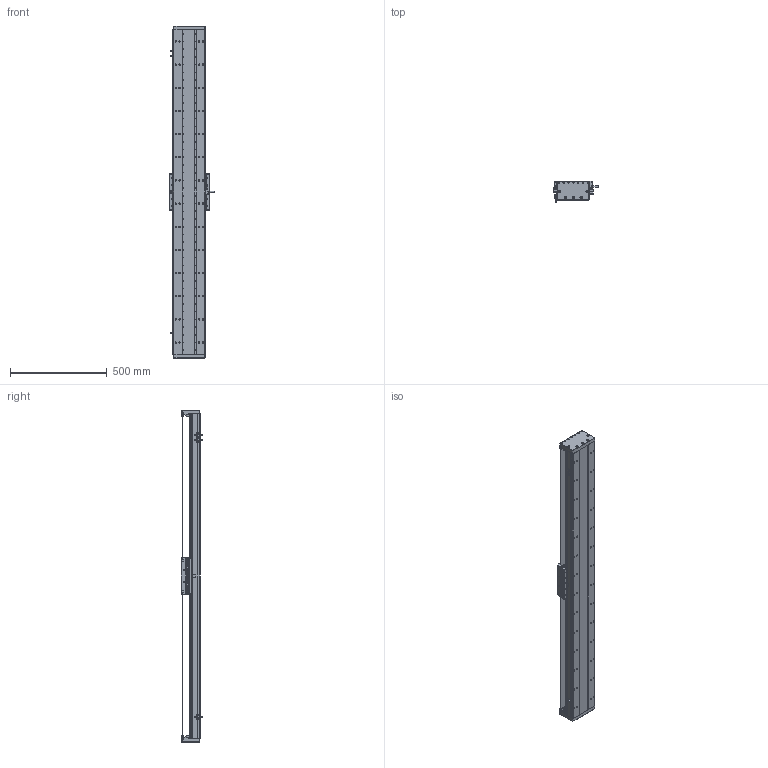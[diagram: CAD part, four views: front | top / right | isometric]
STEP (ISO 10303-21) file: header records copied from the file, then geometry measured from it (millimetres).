
FILE_DESCRIPTION (( 'STEP AP203' ), '1' );
FILE_NAME ('DA-C165-C2-T1440-C010-0.2 直线电机.STEP', '2023-05-15T01:14:29', ( '微软用户' ), ( '微软中国' ), 'SwSTEP 2.0', 'SolidWorks 2019', '' );
FILE_SCHEMA (( 'CONFIG_CONTROL_DESIGN' ));
Length unit declared in the file: millimetre
Products named in the file (18): IU-CU165-L-00 菁釱_L1680; 复件 CKM02-W075-C1C2-TP-3.0 一体电机-C2^DA-C165-C2-T-C010-0.2-N 直线电机; 葩璃 CKM01-W075-TRL^DA-C165-C2-T-C010-0.2-N 眻盄萇儂; 复件 六角薄螺母 M3^DA-C165-C2-T-C010-0.2-N 直线电机_GB_FASTENER_NUT_STNAB M3-C; 复件 DA165-GD-1860-002-00 钢带盖板^复件 CU165钢带组件_DA-C165-C2-T-C010-0.2-N 直线电机; 复件 DA95-HXJ-00 缓冲橡胶^DA-C165-C2-T-C010-0.2-N 直线电机; 复件 DA165-GD-DG-H-00 端盖^复件 CU165钢带组件_DA-C165-C2-T-C010-0.2-N 直线电机; 复件 DA165-GDYK-00 钢带压块^复件 CU165钢带组件_DA-C165-C2-T-C010-0.2-N 直线电机; 复件 DA165-GYP-00 光电感应片^DA-C165-C2-T-C010-0.2-N 直线电机; 复件 CU165钢带组件^DA-C165-C2-T-C010-0.2-N 直线电机; 葩璃 PM-T45^DA-C165-C2-T-C010-0.2-N 眻盄萇儂; DA-C165-C2-T1440-C010-0.2 眻盄萇儂; 珨极趙賑雄怢啣wf-C2; IU-CU165-L 菁釱絳寢; 葩璃 DA95-GT-T-00^IU-CU165-L 菁釱絳寢_T; 复件 XD-U-02L 磁栅尺^DA-C165-C2-T-C010-0.2-N 直线电机_T; 复件 DMA-010-0.2 读数头^DA-C165-C2-T-C010-0.2-N 直线电机; 复件 DA165-GDLK-00 钢带拉块^复件 CU165钢带组件_DA-C165-C2-T-C010-0.2-N 直线电机
Assembly tree (33 placements, depth 3):
  DA-C165-C2-T1440-C010-0.2 眻盄萇儂
    IU-CU165-L 菁釱絳寢
      IU-CU165-L-00 菁釱_L1680
      葩璃 DA95-GT-T-00^IU-CU165-L 菁釱絳寢_T  x4
    复件 XD-U-02L 磁栅尺^DA-C165-C2-T-C010-0.2-N 直线电机_T
    葩璃 PM-T45^DA-C165-C2-T-C010-0.2-N 眻盄萇儂  x3
    葩璃 CKM01-W075-TRL^DA-C165-C2-T-C010-0.2-N 眻盄萇儂
    复件 CU165钢带组件^DA-C165-C2-T-C010-0.2-N 直线电机
      复件 DA165-GD-DG-H-00 端盖^复件 CU165钢带组件_DA-C165-C2-T-C010-0.2-N 直线电机  x2
      复件 DA165-GDYK-00 钢带压块^复件 CU165钢带组件_DA-C165-C2-T-C010-0.2-N 直线电机  x2
      复件 DA165-GD-1860-002-00 钢带盖板^复件 CU165钢带组件_DA-C165-C2-T-C010-0.2-N 直线电机
      复件 DA165-GDLK-00 钢带拉块^复件 CU165钢带组件_DA-C165-C2-T-C010-0.2-N 直线电机  x2
    复件 DA95-HXJ-00 缓冲橡胶^DA-C165-C2-T-C010-0.2-N 直线电机  x4
    复件 DA165-GYP-00 光电感应片^DA-C165-C2-T-C010-0.2-N 直线电机
    复件 DMA-010-0.2 读数头^DA-C165-C2-T-C010-0.2-N 直线电机
    复件 CKM02-W075-C1C2-TP-3.0 一体电机-C2^DA-C165-C2-T-C010-0.2-N 直线电机
    复件 六角薄螺母 M3^DA-C165-C2-T-C010-0.2-N 直线电机_GB_FASTENER_NUT_STNAB M3-C  x6
    珨极趙賑雄怢啣wf-C2
Bounding box: 233 x 111.45 x 1720 mm (x, y, z)
Volume: 10286155.1 mm3; surface area: 3003880.5 mm2
Topology: 70 solids, 70 shells, 3427 faces, 9687 edges, 6133 vertices
Faces by surface type: cylinder 1877, plane 1070, cone 430, torus 46, sphere 4
Entity records: 108055 total; most frequent: CARTESIAN_POINT 27137, ORIENTED_EDGE 16546, DIRECTION 16447, EDGE_CURVE 8273, AXIS2_PLACEMENT_3D 6243, VERTEX_POINT 5369, LINE 3961, VECTOR 3961
